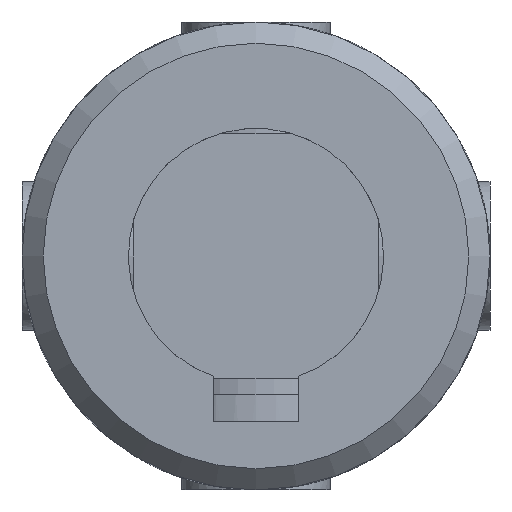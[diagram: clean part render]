
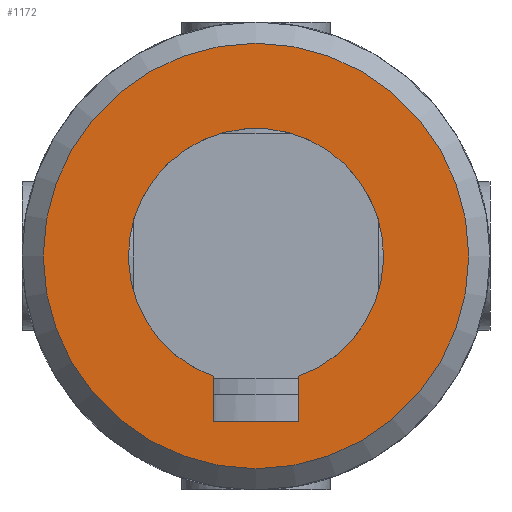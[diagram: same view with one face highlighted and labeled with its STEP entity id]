
A CAD part, front view. The second image highlights one B-rep face of the part: STEP entity #1172.
In plain terms, the highlighted planar face has unit normal (0, -1, 0).
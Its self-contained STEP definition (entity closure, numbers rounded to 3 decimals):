
#132=LINE('',#2130,#175);
#136=LINE('',#2202,#179);
#137=LINE('',#2205,#180);
#175=VECTOR('',#1533,2.143);
#179=VECTOR('',#1543,4.);
#180=VECTOR('',#1548,2.143);
#219=PLANE('',#1297);
#254=FACE_BOUND('',#411,.T.);
#311=FACE_OUTER_BOUND('',#410,.T.);
#410=EDGE_LOOP('',(#993));
#411=EDGE_LOOP('',(#994,#995,#996,#997));
#474=CIRCLE('',#1283,6.);
#481=CIRCLE('',#1295,10.);
#563=VERTEX_POINT('',#2127);
#564=VERTEX_POINT('',#2129);
#568=VERTEX_POINT('',#2184);
#570=VERTEX_POINT('',#2200);
#576=VERTEX_POINT('',#2251);
#700=EDGE_CURVE('',#564,#563,#132,.T.);
#705=EDGE_CURVE('',#568,#564,#474,.T.);
#709=EDGE_CURVE('',#563,#570,#136,.T.);
#711=EDGE_CURVE('',#570,#568,#137,.T.);
#719=EDGE_CURVE('',#576,#576,#481,.T.);
#993=ORIENTED_EDGE('',*,*,#719,.F.);
#994=ORIENTED_EDGE('',*,*,#700,.T.);
#995=ORIENTED_EDGE('',*,*,#709,.T.);
#996=ORIENTED_EDGE('',*,*,#711,.T.);
#997=ORIENTED_EDGE('',*,*,#705,.T.);
#1172=ADVANCED_FACE('',(#311,#254),#219,.F.);
#1283=AXIS2_PLACEMENT_3D('',#2185,#1537,#1538);
#1295=AXIS2_PLACEMENT_3D('',#2252,#1565,#1566);
#1297=AXIS2_PLACEMENT_3D('',#2428,#1573,#1574);
#1533=DIRECTION('',(0.,0.,-1.));
#1537=DIRECTION('center_axis',(0.,1.,0.));
#1538=DIRECTION('ref_axis',(-0.333,0.,0.943));
#1543=DIRECTION('',(-1.,0.,0.));
#1548=DIRECTION('',(0.,0.,1.));
#1565=DIRECTION('center_axis',(0.,1.,0.));
#1566=DIRECTION('ref_axis',(1.,0.,0.));
#1573=DIRECTION('center_axis',(0.,1.,0.));
#1574=DIRECTION('ref_axis',(0.,0.,1.));
#2127=CARTESIAN_POINT('',(2.,-36.5,-7.8));
#2129=CARTESIAN_POINT('',(2.,-36.5,-5.657));
#2130=CARTESIAN_POINT('',(2.,-36.5,-2.828));
#2184=CARTESIAN_POINT('',(-2.,-36.5,-5.657));
#2185=CARTESIAN_POINT('Origin',(0.,-36.5,0.));
#2200=CARTESIAN_POINT('',(-2.,-36.5,-7.8));
#2202=CARTESIAN_POINT('',(1.,-36.5,-7.8));
#2205=CARTESIAN_POINT('',(-2.,-36.5,-3.9));
#2251=CARTESIAN_POINT('',(-10.,-36.5,0.));
#2252=CARTESIAN_POINT('Origin',(0.,-36.5,0.));
#2428=CARTESIAN_POINT('Origin',(0.,-36.5,0.));
